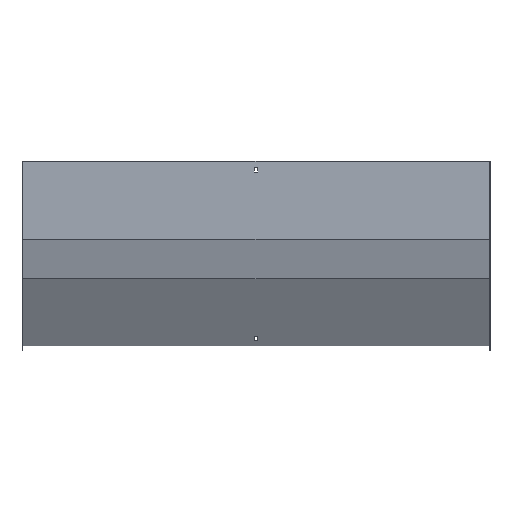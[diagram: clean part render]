
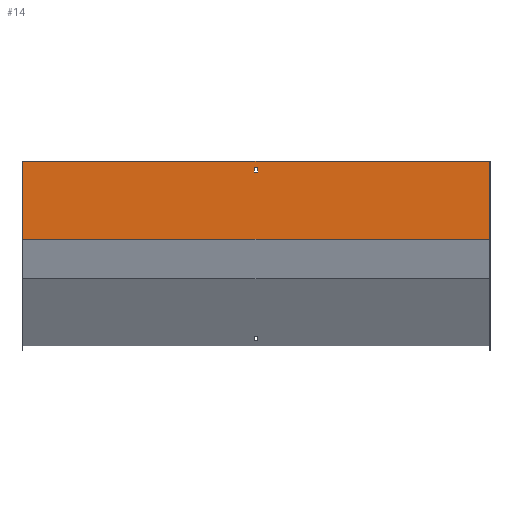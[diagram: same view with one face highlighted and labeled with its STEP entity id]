
A CAD part, front view. The second image highlights one B-rep face of the part: STEP entity #14.
In plain terms, the highlighted planar face has unit normal (0, -1, 0).
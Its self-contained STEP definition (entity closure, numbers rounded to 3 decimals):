
#14 = ADVANCED_FACE ( 'NONE', ( #736, #746 ), #282, .F. ) ;
#24 = DIRECTION ( 'NONE',  ( -1., 0., 0. ) ) ;
#35 = CARTESIAN_POINT ( 'NONE',  ( -3.25, -1.5, 0. ) ) ;
#55 = LINE ( 'NONE', #453, #289 ) ;
#65 = VECTOR ( 'NONE', #358, 1000. ) ;
#83 = CARTESIAN_POINT ( 'NONE',  ( 451.5, -1.5, 0. ) ) ;
#84 = EDGE_CURVE ( 'NONE', #189, #370, #101, .T. ) ;
#90 = ORIENTED_EDGE ( 'NONE', *, *, #338, .F. ) ;
#101 = LINE ( 'NONE', #83, #790 ) ;
#102 = EDGE_CURVE ( 'NONE', #642, #210, #561, .T. ) ;
#105 = EDGE_LOOP ( 'NONE', ( #176, #177, #772, #718 ) ) ;
#111 = DIRECTION ( 'NONE',  ( 1., 0., 0. ) ) ;
#147 = EDGE_CURVE ( 'NONE', #510, #398, #297, .T. ) ;
#159 = CARTESIAN_POINT ( 'NONE',  ( 451.5, -1.5, -150.097 ) ) ;
#173 = ORIENTED_EDGE ( 'NONE', *, *, #228, .T. ) ;
#174 = LINE ( 'NONE', #786, #473 ) ;
#176 = ORIENTED_EDGE ( 'NONE', *, *, #102, .F. ) ;
#177 = ORIENTED_EDGE ( 'NONE', *, *, #362, .F. ) ;
#178 = EDGE_CURVE ( 'NONE', #734, #208, #689, .T. ) ;
#184 = CARTESIAN_POINT ( 'NONE',  ( 3.25, -1.5, -12. ) ) ;
#189 = VERTEX_POINT ( 'NONE', #236 ) ;
#208 = VERTEX_POINT ( 'NONE', #620 ) ;
#210 = VERTEX_POINT ( 'NONE', #184 ) ;
#228 = EDGE_CURVE ( 'NONE', #370, #208, #55, .T. ) ;
#236 = CARTESIAN_POINT ( 'NONE',  ( 450., -1.5, 0. ) ) ;
#282 = PLANE ( 'NONE',  #647 ) ;
#289 = VECTOR ( 'NONE', #518, 1000. ) ;
#297 = LINE ( 'NONE', #35, #65 ) ;
#304 = ORIENTED_EDGE ( 'NONE', *, *, #84, .T. ) ;
#306 = LINE ( 'NONE', #651, #557 ) ;
#332 = DIRECTION ( 'NONE',  ( 0., 0., 1. ) ) ;
#338 = EDGE_CURVE ( 'NONE', #189, #734, #582, .T. ) ;
#358 = DIRECTION ( 'NONE',  ( 0., 0., -1. ) ) ;
#362 = EDGE_CURVE ( 'NONE', #398, #642, #174, .T. ) ;
#370 = VERTEX_POINT ( 'NONE', #839 ) ;
#391 = CARTESIAN_POINT ( 'NONE',  ( 3.25, -1.5, -21. ) ) ;
#398 = VERTEX_POINT ( 'NONE', #728 ) ;
#405 = VECTOR ( 'NONE', #427, 1000. ) ;
#427 = DIRECTION ( 'NONE',  ( 0., 0., 1. ) ) ;
#433 = DIRECTION ( 'NONE',  ( -1., 0., 0. ) ) ;
#438 = CARTESIAN_POINT ( 'NONE',  ( 450., -1.5, 0. ) ) ;
#446 = DIRECTION ( 'NONE',  ( -1., 0., 0. ) ) ;
#453 = CARTESIAN_POINT ( 'NONE',  ( -450., -1.5, 0. ) ) ;
#463 = DIRECTION ( 'NONE',  ( 0., 1., 0. ) ) ;
#473 = VECTOR ( 'NONE', #111, 1000. ) ;
#505 = CARTESIAN_POINT ( 'NONE',  ( 450., -1.5, -150.097 ) ) ;
#510 = VERTEX_POINT ( 'NONE', #795 ) ;
#518 = DIRECTION ( 'NONE',  ( 0., 0., -1. ) ) ;
#523 = DIRECTION ( 'NONE',  ( 0., 0., -1. ) ) ;
#557 = VECTOR ( 'NONE', #446, 1000. ) ;
#561 = LINE ( 'NONE', #766, #405 ) ;
#582 = LINE ( 'NONE', #438, #843 ) ;
#620 = CARTESIAN_POINT ( 'NONE',  ( -450., -1.5, -150.097 ) ) ;
#642 = VERTEX_POINT ( 'NONE', #391 ) ;
#647 = AXIS2_PLACEMENT_3D ( 'NONE', #808, #463, #332 ) ;
#651 = CARTESIAN_POINT ( 'NONE',  ( 451.5, -1.5, -12. ) ) ;
#678 = EDGE_CURVE ( 'NONE', #210, #510, #306, .T. ) ;
#689 = LINE ( 'NONE', #159, #751 ) ;
#718 = ORIENTED_EDGE ( 'NONE', *, *, #678, .F. ) ;
#728 = CARTESIAN_POINT ( 'NONE',  ( -3.25, -1.5, -21. ) ) ;
#734 = VERTEX_POINT ( 'NONE', #505 ) ;
#736 = FACE_OUTER_BOUND ( 'NONE', #817, .T. ) ;
#746 = FACE_BOUND ( 'NONE', #105, .T. ) ;
#751 = VECTOR ( 'NONE', #24, 1000. ) ;
#763 = ORIENTED_EDGE ( 'NONE', *, *, #178, .F. ) ;
#766 = CARTESIAN_POINT ( 'NONE',  ( 3.25, -1.5, 0. ) ) ;
#772 = ORIENTED_EDGE ( 'NONE', *, *, #147, .F. ) ;
#786 = CARTESIAN_POINT ( 'NONE',  ( 451.5, -1.5, -21. ) ) ;
#790 = VECTOR ( 'NONE', #433, 1000. ) ;
#795 = CARTESIAN_POINT ( 'NONE',  ( -3.25, -1.5, -12. ) ) ;
#808 = CARTESIAN_POINT ( 'NONE',  ( 451.5, -1.5, 0. ) ) ;
#817 = EDGE_LOOP ( 'NONE', ( #173, #763, #90, #304 ) ) ;
#839 = CARTESIAN_POINT ( 'NONE',  ( -450., -1.5, 0. ) ) ;
#843 = VECTOR ( 'NONE', #523, 1000. ) ;
